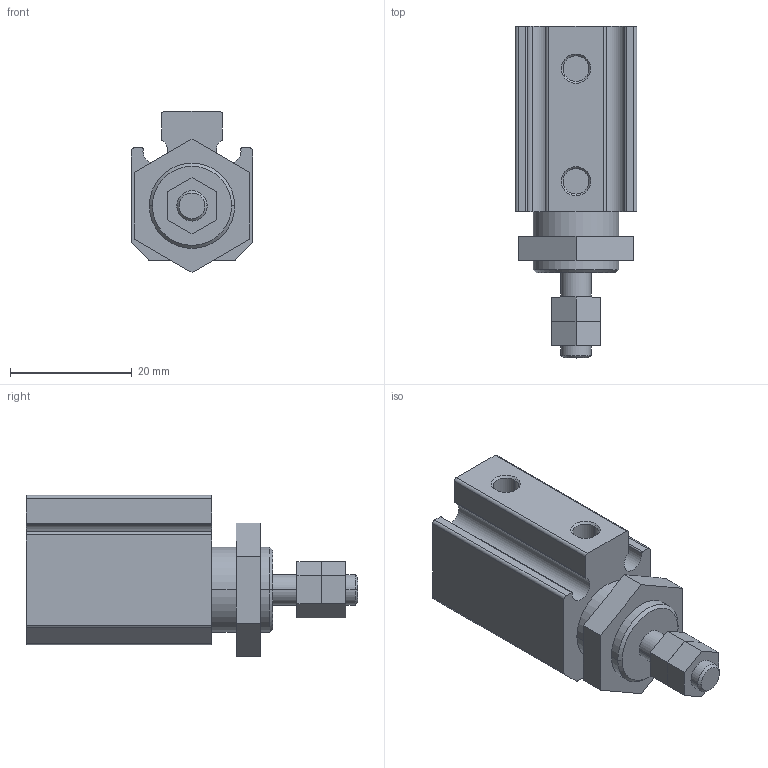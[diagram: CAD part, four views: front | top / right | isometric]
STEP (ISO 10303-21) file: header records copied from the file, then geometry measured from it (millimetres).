
FILE_DESCRIPTION((''),'2;1');
FILE_NAME('D:\CHANTO-3D-已完成\2010\第三大類\第三大類-3D\AAP-3D\AAP16X5.stp','2010-09-18T08:42:11',('Administrator'),(''),'Autodesk Inventor 8','Autodesk Inventor 8','');
FILE_SCHEMA(('AUTOMOTIVE_DESIGN { 1 0 10303 214 1 1 1 1 }'));
Length unit declared in the file: millimetre
Products named in the file (1): AAP16X5
Bounding box: 20 x 54.5 x 26.47 mm (x, y, z)
Volume: 14831.1 mm3; surface area: 5095.6 mm2
Topology: 1 solids, 1 shells, 78 faces, 190 edges, 124 vertices
Faces by surface type: plane 40, cylinder 30, cone 8
Entity records: 2321 total; most frequent: DIRECTION 416, CARTESIAN_POINT 393, ORIENTED_EDGE 380, EDGE_CURVE 190, AXIS2_PLACEMENT_3D 147, VERTEX_POINT 124, VECTOR 122, LINE 122
